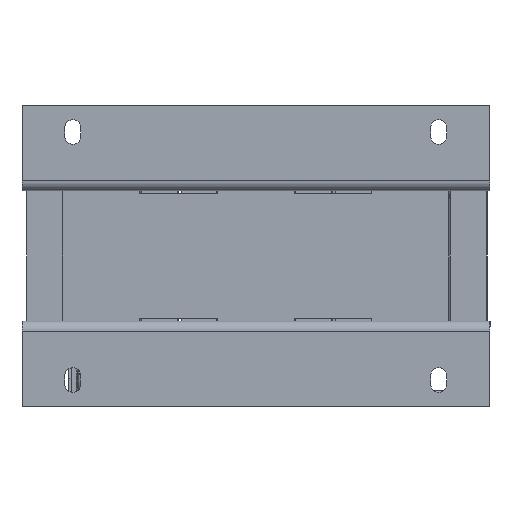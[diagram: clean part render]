
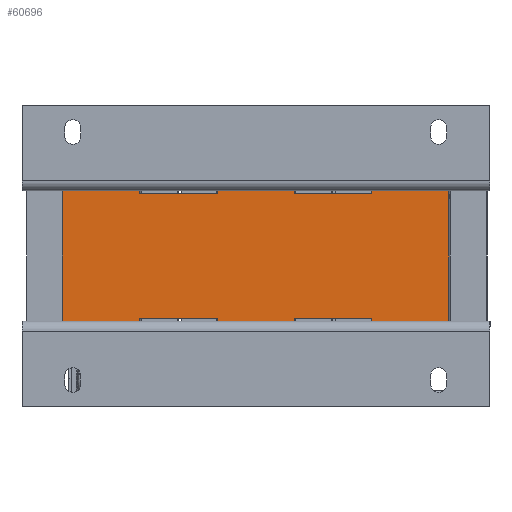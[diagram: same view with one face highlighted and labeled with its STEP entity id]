
A CAD part, front view. The second image highlights one B-rep face of the part: STEP entity #60696.
In plain terms, the highlighted planar face has unit normal (-0.005, -1, 0).
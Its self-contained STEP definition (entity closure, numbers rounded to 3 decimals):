
#57597=CARTESIAN_POINT('',(123.631,-191.542,-0.106));
#57598=VERTEX_POINT('',#57597);
#57613=CARTESIAN_POINT('',(85.632,-191.351,-0.106));
#57614=VERTEX_POINT('',#57613);
#57621=CARTESIAN_POINT('',(47.632,-191.16,-0.106));
#57622=VERTEX_POINT('',#57621);
#57623=CARTESIAN_POINT('',(47.632,-191.16,-0.106));
#57624=DIRECTION('',(1.,-0.005,0.));
#57625=VECTOR('',#57624,38.);
#57626=LINE('',#57623,#57625);
#57627=EDGE_CURVE('',#57622,#57614,#57626,.T.);
#57645=CARTESIAN_POINT('',(9.633,-190.969,-0.106));
#57646=VERTEX_POINT('',#57645);
#57653=CARTESIAN_POINT('',(-28.367,-190.777,-0.106));
#57654=VERTEX_POINT('',#57653);
#57655=CARTESIAN_POINT('',(-28.367,-190.777,-0.106));
#57656=DIRECTION('',(1.,-0.005,0.));
#57657=VECTOR('',#57656,38.);
#57658=LINE('',#57655,#57657);
#57659=EDGE_CURVE('',#57654,#57646,#57658,.T.);
#57700=CARTESIAN_POINT('',(161.631,-191.733,-0.106));
#57701=VERTEX_POINT('',#57700);
#57708=CARTESIAN_POINT('',(123.631,-191.542,-0.106));
#57709=DIRECTION('',(1.,-0.005,0.));
#57710=VECTOR('',#57709,38.);
#57711=LINE('',#57708,#57710);
#57712=EDGE_CURVE('',#57598,#57701,#57711,.T.);
#57990=CARTESIAN_POINT('',(123.631,-191.542,63.894));
#57991=VERTEX_POINT('',#57990);
#58000=CARTESIAN_POINT('',(161.631,-191.733,63.894));
#58001=VERTEX_POINT('',#58000);
#58002=CARTESIAN_POINT('',(161.631,-191.733,63.894));
#58003=DIRECTION('',(-1.,0.005,0.));
#58004=VECTOR('',#58003,38.0);
#58005=LINE('',#58002,#58004);
#58006=EDGE_CURVE('',#58001,#57991,#58005,.T.);
#58056=CARTESIAN_POINT('',(-28.367,-190.777,63.894));
#58057=VERTEX_POINT('',#58056);
#58064=CARTESIAN_POINT('',(9.633,-190.969,63.894));
#58065=VERTEX_POINT('',#58064);
#58066=CARTESIAN_POINT('',(9.633,-190.969,63.894));
#58067=DIRECTION('',(-1.,0.005,0.));
#58068=VECTOR('',#58067,38.);
#58069=LINE('',#58066,#58068);
#58070=EDGE_CURVE('',#58065,#58057,#58069,.T.);
#58088=CARTESIAN_POINT('',(47.632,-191.16,63.894));
#58089=VERTEX_POINT('',#58088);
#58096=CARTESIAN_POINT('',(85.632,-191.351,63.894));
#58097=VERTEX_POINT('',#58096);
#58098=CARTESIAN_POINT('',(85.632,-191.351,63.894));
#58099=DIRECTION('',(-1.,0.005,0.));
#58100=VECTOR('',#58099,38.);
#58101=LINE('',#58098,#58100);
#58102=EDGE_CURVE('',#58097,#58089,#58101,.T.);
#59290=CARTESIAN_POINT('',(9.633,-190.969,1.394));
#59291=VERTEX_POINT('',#59290);
#59308=CARTESIAN_POINT('',(47.632,-191.16,1.394));
#59309=VERTEX_POINT('',#59308);
#59316=CARTESIAN_POINT('',(47.632,-191.16,1.394));
#59317=DIRECTION('',(-1.,0.005,0.));
#59318=VECTOR('',#59317,38.);
#59319=LINE('',#59316,#59318);
#59320=EDGE_CURVE('',#59309,#59291,#59319,.T.);
#59610=CARTESIAN_POINT('',(9.633,-190.969,62.394));
#59611=VERTEX_POINT('',#59610);
#59618=CARTESIAN_POINT('',(47.632,-191.16,62.394));
#59619=VERTEX_POINT('',#59618);
#59620=CARTESIAN_POINT('',(47.632,-191.16,62.394));
#59621=DIRECTION('',(-1.,0.005,0.));
#59622=VECTOR('',#59621,38.);
#59623=LINE('',#59620,#59622);
#59624=EDGE_CURVE('',#59619,#59611,#59623,.T.);
#59863=CARTESIAN_POINT('',(85.632,-191.351,1.394));
#59864=VERTEX_POINT('',#59863);
#59881=CARTESIAN_POINT('',(123.631,-191.542,1.394));
#59882=VERTEX_POINT('',#59881);
#59889=CARTESIAN_POINT('',(123.631,-191.542,1.394));
#59890=DIRECTION('',(-1.,0.005,0.));
#59891=VECTOR('',#59890,38.);
#59892=LINE('',#59889,#59891);
#59893=EDGE_CURVE('',#59882,#59864,#59892,.T.);
#60286=CARTESIAN_POINT('',(85.632,-191.351,62.394));
#60287=VERTEX_POINT('',#60286);
#60294=CARTESIAN_POINT('',(123.631,-191.542,62.394));
#60295=VERTEX_POINT('',#60294);
#60296=CARTESIAN_POINT('',(123.631,-191.542,62.394));
#60297=DIRECTION('',(-1.,0.005,0.));
#60298=VECTOR('',#60297,38.);
#60299=LINE('',#60296,#60298);
#60300=EDGE_CURVE('',#60295,#60287,#60299,.T.);
#60370=CARTESIAN_POINT('',(123.631,-191.542,-0.106));
#60371=DIRECTION('',(0.0,0.0,1.0));
#60372=VECTOR('',#60371,1.5);
#60373=LINE('',#60370,#60372);
#60374=EDGE_CURVE('',#57598,#59882,#60373,.T.);
#60384=CARTESIAN_POINT('',(123.631,-191.542,63.894));
#60385=DIRECTION('',(0.0,0.0,-1.0));
#60386=VECTOR('',#60385,1.5);
#60387=LINE('',#60384,#60386);
#60388=EDGE_CURVE('',#57991,#60295,#60387,.T.);
#60406=CARTESIAN_POINT('',(161.631,-191.733,-0.106));
#60407=DIRECTION('',(0.0,0.0,1.0));
#60408=VECTOR('',#60407,64.);
#60409=LINE('',#60406,#60408);
#60410=EDGE_CURVE('',#57701,#58001,#60409,.T.);
#60463=CARTESIAN_POINT('',(47.632,-191.16,-0.106));
#60464=DIRECTION('',(0.0,0.0,1.0));
#60465=VECTOR('',#60464,1.5);
#60466=LINE('',#60463,#60465);
#60467=EDGE_CURVE('',#57622,#59309,#60466,.T.);
#60477=CARTESIAN_POINT('',(47.632,-191.16,63.894));
#60478=DIRECTION('',(0.0,0.0,-1.0));
#60479=VECTOR('',#60478,1.5);
#60480=LINE('',#60477,#60479);
#60481=EDGE_CURVE('',#58089,#59619,#60480,.T.);
#60502=CARTESIAN_POINT('',(85.632,-191.351,-0.106));
#60503=DIRECTION('',(0.0,0.0,1.0));
#60504=VECTOR('',#60503,1.5);
#60505=LINE('',#60502,#60504);
#60506=EDGE_CURVE('',#57614,#59864,#60505,.T.);
#60517=CARTESIAN_POINT('',(85.632,-191.351,63.894));
#60518=DIRECTION('',(0.0,0.0,-1.0));
#60519=VECTOR('',#60518,1.5);
#60520=LINE('',#60517,#60519);
#60521=EDGE_CURVE('',#58097,#60287,#60520,.T.);
#60589=CARTESIAN_POINT('',(-28.367,-190.777,-0.106));
#60590=DIRECTION('',(0.0,0.0,1.0));
#60591=VECTOR('',#60590,64.);
#60592=LINE('',#60589,#60591);
#60593=EDGE_CURVE('',#57654,#58057,#60592,.T.);
#60608=CARTESIAN_POINT('',(9.633,-190.969,-0.106));
#60609=DIRECTION('',(0.0,0.0,1.0));
#60610=VECTOR('',#60609,1.5);
#60611=LINE('',#60608,#60610);
#60612=EDGE_CURVE('',#57646,#59291,#60611,.T.);
#60623=CARTESIAN_POINT('',(9.633,-190.969,63.894));
#60624=DIRECTION('',(0.0,0.0,-1.0));
#60625=VECTOR('',#60624,1.5);
#60626=LINE('',#60623,#60625);
#60627=EDGE_CURVE('',#58065,#59611,#60626,.T.);
#60669=CARTESIAN_POINT('',(161.631,-191.733,1.394));
#60670=DIRECTION('',(-0.005,-1.,0.));
#60671=DIRECTION('',(0.0,0.0,-1.0));
#60672=AXIS2_PLACEMENT_3D('',#60669,#60670,#60671);
#60673=PLANE('',#60672);
#60674=ORIENTED_EDGE('',*,*,#60300,.T.);
#60675=ORIENTED_EDGE('',*,*,#60521,.F.);
#60676=ORIENTED_EDGE('',*,*,#58102,.T.);
#60677=ORIENTED_EDGE('',*,*,#60481,.T.);
#60678=ORIENTED_EDGE('',*,*,#59624,.T.);
#60679=ORIENTED_EDGE('',*,*,#60627,.F.);
#60680=ORIENTED_EDGE('',*,*,#58070,.T.);
#60681=ORIENTED_EDGE('',*,*,#60593,.F.);
#60682=ORIENTED_EDGE('',*,*,#57659,.T.);
#60683=ORIENTED_EDGE('',*,*,#60612,.T.);
#60684=ORIENTED_EDGE('',*,*,#59320,.F.);
#60685=ORIENTED_EDGE('',*,*,#60467,.F.);
#60686=ORIENTED_EDGE('',*,*,#57627,.T.);
#60687=ORIENTED_EDGE('',*,*,#60506,.T.);
#60688=ORIENTED_EDGE('',*,*,#59893,.F.);
#60689=ORIENTED_EDGE('',*,*,#60374,.F.);
#60690=ORIENTED_EDGE('',*,*,#57712,.T.);
#60691=ORIENTED_EDGE('',*,*,#60410,.T.);
#60692=ORIENTED_EDGE('',*,*,#58006,.T.);
#60693=ORIENTED_EDGE('',*,*,#60388,.T.);
#60694=EDGE_LOOP('',(#60674,#60675,#60676,#60677,#60678,#60679,#60680,#60681,#60682,#60683,#60684,#60685,#60686,#60687,#60688,#60689,#60690,#60691,#60692,#60693));
#60695=FACE_OUTER_BOUND('',#60694,.T.);
#60696=ADVANCED_FACE('',(#60695),#60673,.T.);
